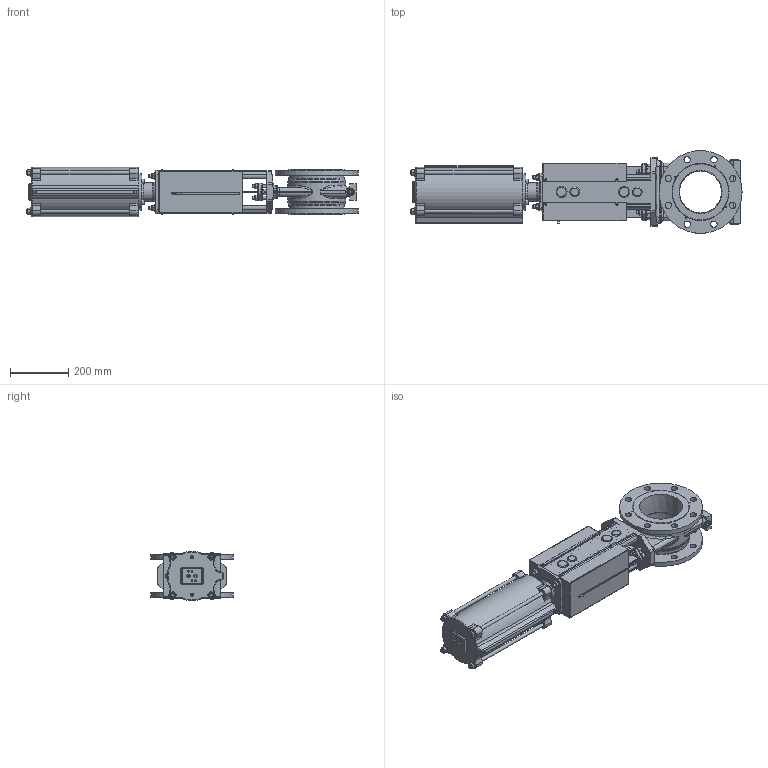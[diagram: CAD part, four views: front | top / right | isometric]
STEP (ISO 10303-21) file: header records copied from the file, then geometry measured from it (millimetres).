
FILE_DESCRIPTION(/* description */ ('','CAx-IF Rec.Pracs.---Representation and Presentation of Product Manufacturing Information (PMI)---4.0---2014-10-13'),/* implementation_level */ '2;1');
FILE_NAME(/* name */ 'F:\Emir\3D-block special\SLV\SLF-DN150-PN10-FRSC160-215.stp',/* time_stamp */ '2018-09-04T14:02:38+02:00',/* author */ ('emimus'),/* organization */ (''),/* preprocessor_version */ 'ST-DEVELOPER v17.2',/* originating_system */ 'Autodesk Inventor 2019',/* authorisation */ '');
FILE_SCHEMA (('AP242_MANAGED_MODEL_BASED_3D_ENGINEERING_MIM_LF { 1 0 10303 442 1 1 4 }'));
Products named in the file (1): SLF-DN150-PN10-FRSC160-215
Bounding box: 1141.5 x 285 x 170 mm (x, y, z)
Volume: 9745574.9 mm3; surface area: 2138307.8 mm2
Topology: 3 solids, 3 shells, 2589 faces, 6642 edges, 4122 vertices
Faces by surface type: plane 917, cylinder 647, bspline 369, cone 273, torus 271, sphere 112
Full cylindrical faces by diameter (mm): 3 x10, 3.5 x8, 3.6 x8, 4 x6, 4.134 x12, 4.5 x4, 4.917 x4, 6 x1, 6.647 x8, 8 x2, 8.376 x2, 8.88 x1, 9.5 x4, 10 x26, 10.5 x4, 11.445 x2, 12 x28, 13 x11, 15 x4, 16 x5, 17.7 x1, 18 x3, 19 x4, 20 x5, 20.5 x1, 22 x16, 23 x4, 24 x12, 25.8 x2, 28 x4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
Entity records: 93978 total; most frequent: CARTESIAN_POINT 32194, DIRECTION 13165, ORIENTED_EDGE 13126, EDGE_CURVE 6563, AXIS2_PLACEMENT_3D 5535, VERTEX_POINT 4122, CIRCLE 2974, EDGE_LOOP 2885
